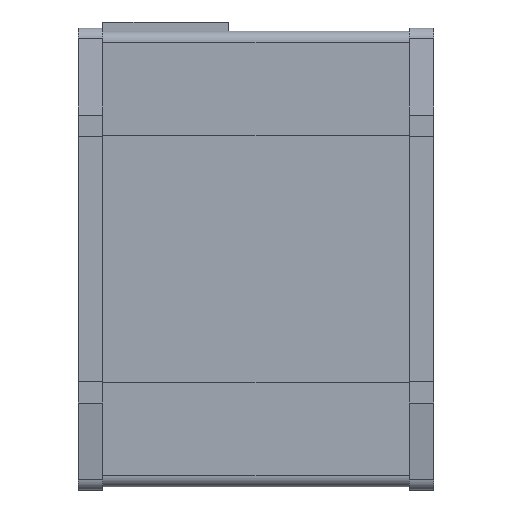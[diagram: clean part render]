
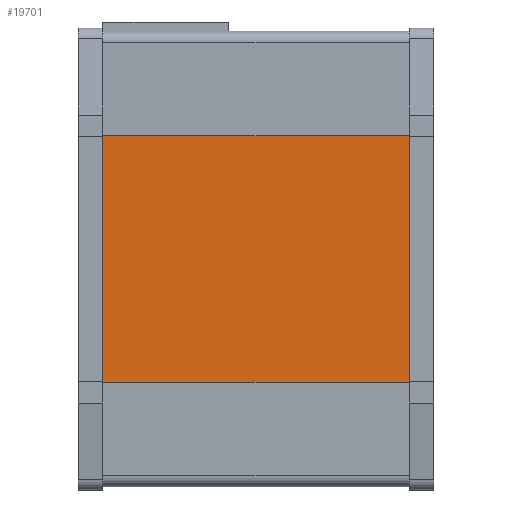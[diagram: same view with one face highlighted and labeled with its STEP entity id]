
A CAD part, front view. The second image highlights one B-rep face of the part: STEP entity #19701.
In plain terms, the highlighted planar face has unit normal (0, -1, 0).
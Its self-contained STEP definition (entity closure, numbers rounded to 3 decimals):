
#217 = ORIENTED_EDGE ( 'NONE', *, *, #14725, .T. ) ;
#436 = ORIENTED_EDGE ( 'NONE', *, *, #18180, .T. ) ;
#726 = DIRECTION ( 'NONE',  ( 0., 0., -1. ) ) ;
#881 = DIRECTION ( 'NONE',  ( -1., 0., 0. ) ) ;
#2047 = LINE ( 'NONE', #14639, #9730 ) ;
#2094 = DIRECTION ( 'NONE',  ( 0., 1., 0. ) ) ;
#3591 = FACE_OUTER_BOUND ( 'NONE', #10934, .T. ) ;
#4105 = DIRECTION ( 'NONE',  ( 0., 0., -1. ) ) ;
#4237 = CARTESIAN_POINT ( 'NONE',  ( 4., 3.1, -57.8 ) ) ;
#5212 = LINE ( 'NONE', #12923, #5261 ) ;
#5261 = VECTOR ( 'NONE', #8243, 1000. ) ;
#6086 = VERTEX_POINT ( 'NONE', #14411 ) ;
#6643 = DIRECTION ( 'NONE',  ( 0., 0., 1. ) ) ;
#6993 = ORIENTED_EDGE ( 'NONE', *, *, #12214, .F. ) ;
#8148 = PLANE ( 'NONE',  #19935 ) ;
#8243 = DIRECTION ( 'NONE',  ( -1., 0., 0. ) ) ;
#9376 = VERTEX_POINT ( 'NONE', #12930 ) ;
#9656 = CARTESIAN_POINT ( 'NONE',  ( 54., 3.1, -57.8 ) ) ;
#9730 = VECTOR ( 'NONE', #726, 1000. ) ;
#9780 = VERTEX_POINT ( 'NONE', #4237 ) ;
#10115 = VECTOR ( 'NONE', #4105, 1000. ) ;
#10934 = EDGE_LOOP ( 'NONE', ( #436, #6993, #20003, #217 ) ) ;
#12214 = EDGE_CURVE ( 'NONE', #9376, #9780, #5212, .T. ) ;
#12252 = VERTEX_POINT ( 'NONE', #19228 ) ;
#12923 = CARTESIAN_POINT ( 'NONE',  ( 54., 3.1, -57.8 ) ) ;
#12930 = CARTESIAN_POINT ( 'NONE',  ( 54., 3.1, -57.8 ) ) ;
#13154 = CARTESIAN_POINT ( 'NONE',  ( 54., 3.1, -17.6 ) ) ;
#13797 = VECTOR ( 'NONE', #881, 1000. ) ;
#14411 = CARTESIAN_POINT ( 'NONE',  ( 54., 3.1, -17.6 ) ) ;
#14639 = CARTESIAN_POINT ( 'NONE',  ( 54., 3.1, -57.8 ) ) ;
#14681 = LINE ( 'NONE', #16099, #10115 ) ;
#14725 = EDGE_CURVE ( 'NONE', #6086, #12252, #19355, .T. ) ;
#16099 = CARTESIAN_POINT ( 'NONE',  ( 4., 3.1, -57.8 ) ) ;
#16588 = EDGE_CURVE ( 'NONE', #6086, #9376, #2047, .T. ) ;
#18180 = EDGE_CURVE ( 'NONE', #12252, #9780, #14681, .T. ) ;
#19228 = CARTESIAN_POINT ( 'NONE',  ( 4., 3.1, -17.6 ) ) ;
#19355 = LINE ( 'NONE', #13154, #13797 ) ;
#19701 = ADVANCED_FACE ( 'NONE', ( #3591 ), #8148, .F. ) ;
#19935 = AXIS2_PLACEMENT_3D ( 'NONE', #9656, #2094, #6643 ) ;
#20003 = ORIENTED_EDGE ( 'NONE', *, *, #16588, .F. ) ;
